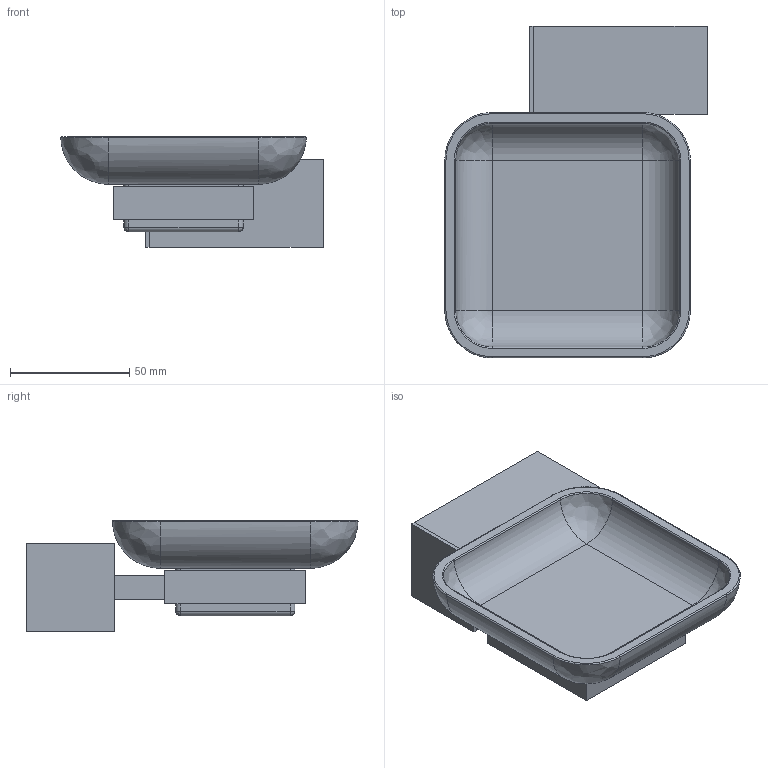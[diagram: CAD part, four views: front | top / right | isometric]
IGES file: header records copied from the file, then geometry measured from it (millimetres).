
Start section: Autodesk Alias AutoStudio 2020 (Build: 201905142046-4cbec609ad) Autodesk Translation Framework 8.4.1.1053
Global section: file name: 12126210; native system: unknown; preprocessor: unknown; author: unknown; organization: unknown; date: 20220929.161317; units: millimetre
Bounding box: 110.09 x 139.28 x 46.55 mm (x, y, z)
Surface area: 96432 mm2 (no closed solid volume)
Topology: 0 solids, 2 shells, 88 faces, 208 edges, 116 vertices
Faces by surface type: bspline 88
